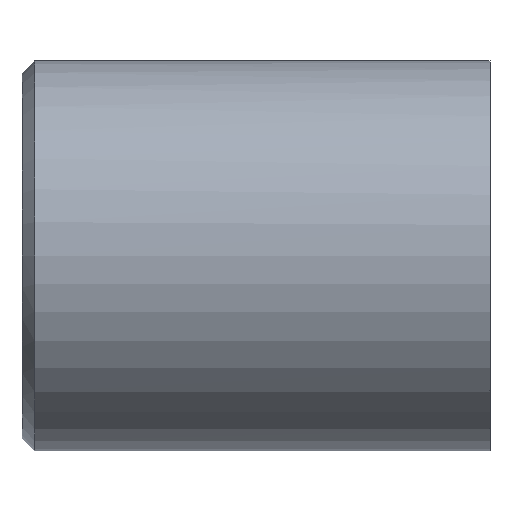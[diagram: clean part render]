
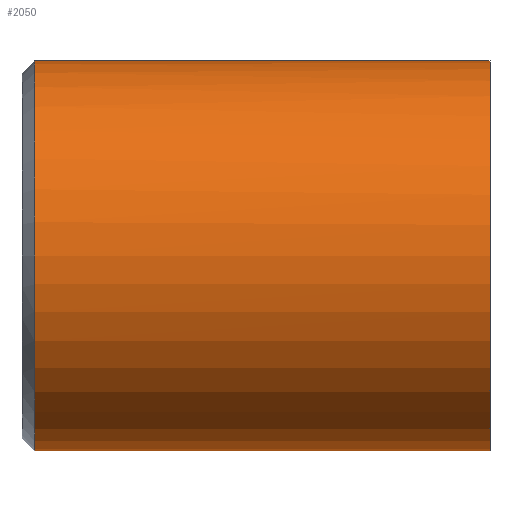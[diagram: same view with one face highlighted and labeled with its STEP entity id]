
A CAD part, front view. The second image highlights one B-rep face of the part: STEP entity #2050.
In plain terms, the highlighted cylindrical face has radius 5 mm (diameter 10 mm), a partial arc.
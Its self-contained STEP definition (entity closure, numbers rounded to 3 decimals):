
#124=CARTESIAN_POINT('Vertex',(0.,0.,-5.)) ;
#130=CARTESIAN_POINT('Control Point',(0.,-5.,0.)) ;
#131=CARTESIAN_POINT('Control Point',(0.,-5.,-0.548)) ;
#132=CARTESIAN_POINT('Control Point',(0.,-4.925,-1.095)) ;
#133=CARTESIAN_POINT('Control Point',(0.,-4.775,-1.629)) ;
#134=CARTESIAN_POINT('Control Point',(0.,-4.333,-2.643)) ;
#135=CARTESIAN_POINT('Control Point',(0.,-3.634,-3.5)) ;
#136=CARTESIAN_POINT('Control Point',(0.,-3.228,-3.878)) ;
#137=CARTESIAN_POINT('Control Point',(0.,-2.382,-4.47)) ;
#138=CARTESIAN_POINT('Control Point',(0.,-1.417,-4.831)) ;
#139=CARTESIAN_POINT('Control Point',(0.,-0.951,-4.944)) ;
#140=CARTESIAN_POINT('Control Point',(0.,-0.475,-5.)) ;
#141=CARTESIAN_POINT('Control Point',(0.,0.,-5.)) ;
#142=CARTESIAN_POINT('Vertex',(0.,-5.,0.)) ;
#146=CARTESIAN_POINT('Control Point',(0.,0.,5.)) ;
#147=CARTESIAN_POINT('Control Point',(0.,-0.072,5.)) ;
#148=CARTESIAN_POINT('Control Point',(0.,-0.145,4.999)) ;
#149=CARTESIAN_POINT('Control Point',(0.,-0.217,4.996)) ;
#150=CARTESIAN_POINT('Control Point',(0.,-0.836,4.962)) ;
#151=CARTESIAN_POINT('Control Point',(0.,-1.449,4.833)) ;
#152=CARTESIAN_POINT('Control Point',(0.,-1.97,4.645)) ;
#153=CARTESIAN_POINT('Control Point',(0.,-2.949,4.13)) ;
#154=CARTESIAN_POINT('Control Point',(0.,-3.753,3.372)) ;
#155=CARTESIAN_POINT('Control Point',(0.,-4.101,2.939)) ;
#156=CARTESIAN_POINT('Control Point',(0.,-4.593,2.116)) ;
#157=CARTESIAN_POINT('Control Point',(0.,-4.878,1.203)) ;
#158=CARTESIAN_POINT('Control Point',(0.,-4.959,0.806)) ;
#159=CARTESIAN_POINT('Control Point',(0.,-5.,0.403)) ;
#160=CARTESIAN_POINT('Control Point',(0.,-5.,0.)) ;
#161=CARTESIAN_POINT('Vertex',(0.,0.,5.)) ;
#1984=CARTESIAN_POINT('Line Origine',(12.,0.,5.)) ;
#1988=CARTESIAN_POINT('Vertex',(11.675,0.,5.)) ;
#2005=CARTESIAN_POINT('Vertex',(11.675,0.,-5.)) ;
#2008=CARTESIAN_POINT('Line Origine',(12.,0.,-5.)) ;
#2022=CARTESIAN_POINT('Axis2P3D Location',(12.,0.,0.)) ;
#2027=CARTESIAN_POINT('Axis2P3D Location',(11.675,0.,0.)) ;
#2031=CARTESIAN_POINT('Vertex',(11.675,-5.,0.)) ;
#2035=CARTESIAN_POINT('Control Point',(11.675,0.,5.)) ;
#2036=CARTESIAN_POINT('Control Point',(11.675,-1.571,5.)) ;
#2037=CARTESIAN_POINT('Control Point',(11.675,-3.143,4.385)) ;
#2038=CARTESIAN_POINT('Control Point',(11.675,-4.385,3.143)) ;
#2039=CARTESIAN_POINT('Control Point',(11.675,-5.,1.571)) ;
#2040=CARTESIAN_POINT('Control Point',(11.675,-5.,0.)) ;
#1985=DIRECTION('Vector Direction',(-1.,0.,0.)) ;
#2009=DIRECTION('Vector Direction',(-1.,0.,0.)) ;
#2023=DIRECTION('Axis2P3D Direction',(-1.,-0.,-0.)) ;
#2024=DIRECTION('Axis2P3D XDirection',(0.,0.,-1.)) ;
#2028=DIRECTION('Axis2P3D Direction',(-1.,-0.,-0.)) ;
#2025=AXIS2_PLACEMENT_3D('Cylinder Axis2P3D',#2022,#2023,#2024) ;
#2029=AXIS2_PLACEMENT_3D('Circle Axis2P3D',#2027,#2028,$) ;
#2043=ORIENTED_EDGE('',*,*,#2012,.T.) ;
#2044=ORIENTED_EDGE('',*,*,#2033,.F.) ;
#2045=ORIENTED_EDGE('',*,*,#2041,.F.) ;
#2046=ORIENTED_EDGE('',*,*,#1990,.T.) ;
#2047=ORIENTED_EDGE('',*,*,#163,.T.) ;
#2048=ORIENTED_EDGE('',*,*,#144,.T.) ;
#1986=VECTOR('Line Direction',#1985,1.) ;
#2010=VECTOR('Line Direction',#2009,1.) ;
#2050=ADVANCED_FACE('D375-10-A-DM-FA',(#2049),#2026,.T.) ;
#129=B_SPLINE_CURVE_WITH_KNOTS('',5,(#130,#131,#132,#133,#134,#135,#136,#137,#138,#139,#140,#141),.UNSPECIFIED.,.F.,.U.,(6,3,3,6),(0.,3.873,7.746,11.107),.UNSPECIFIED.) ;
#145=B_SPLINE_CURVE_WITH_KNOTS('',5,(#146,#147,#148,#149,#150,#151,#152,#153,#154,#155,#156,#157,#158,#159,#160),.UNSPECIFIED.,.F.,.U.,(6,3,3,3,6),(11.107,11.619,15.492,19.365,22.214),.UNSPECIFIED.) ;
#2034=B_SPLINE_CURVE_WITH_KNOTS('',5,(#2035,#2036,#2037,#2038,#2039,#2040),.UNSPECIFIED.,.F.,.U.,(6,6),(-3.927,3.927),.UNSPECIFIED.) ;
#2030=CIRCLE('generated circle',#2029,5.) ;
#2026=CYLINDRICAL_SURFACE('generated cylinder',#2025,5.) ;
#144=EDGE_CURVE('',#143,#125,#129,.T.) ;
#163=EDGE_CURVE('',#162,#143,#145,.T.) ;
#1990=EDGE_CURVE('',#1989,#162,#1987,.T.) ;
#2012=EDGE_CURVE('',#125,#2006,#2011,.F.) ;
#2033=EDGE_CURVE('',#2032,#2006,#2030,.F.) ;
#2041=EDGE_CURVE('',#1989,#2032,#2034,.T.) ;
#2042=EDGE_LOOP('',(#2043,#2044,#2045,#2046,#2047,#2048)) ;
#2049=FACE_OUTER_BOUND('',#2042,.T.) ;
#1987=LINE('Line',#1984,#1986) ;
#2011=LINE('Line',#2008,#2010) ;
#125=VERTEX_POINT('',#124) ;
#143=VERTEX_POINT('',#142) ;
#162=VERTEX_POINT('',#161) ;
#1989=VERTEX_POINT('',#1988) ;
#2006=VERTEX_POINT('',#2005) ;
#2032=VERTEX_POINT('',#2031) ;
